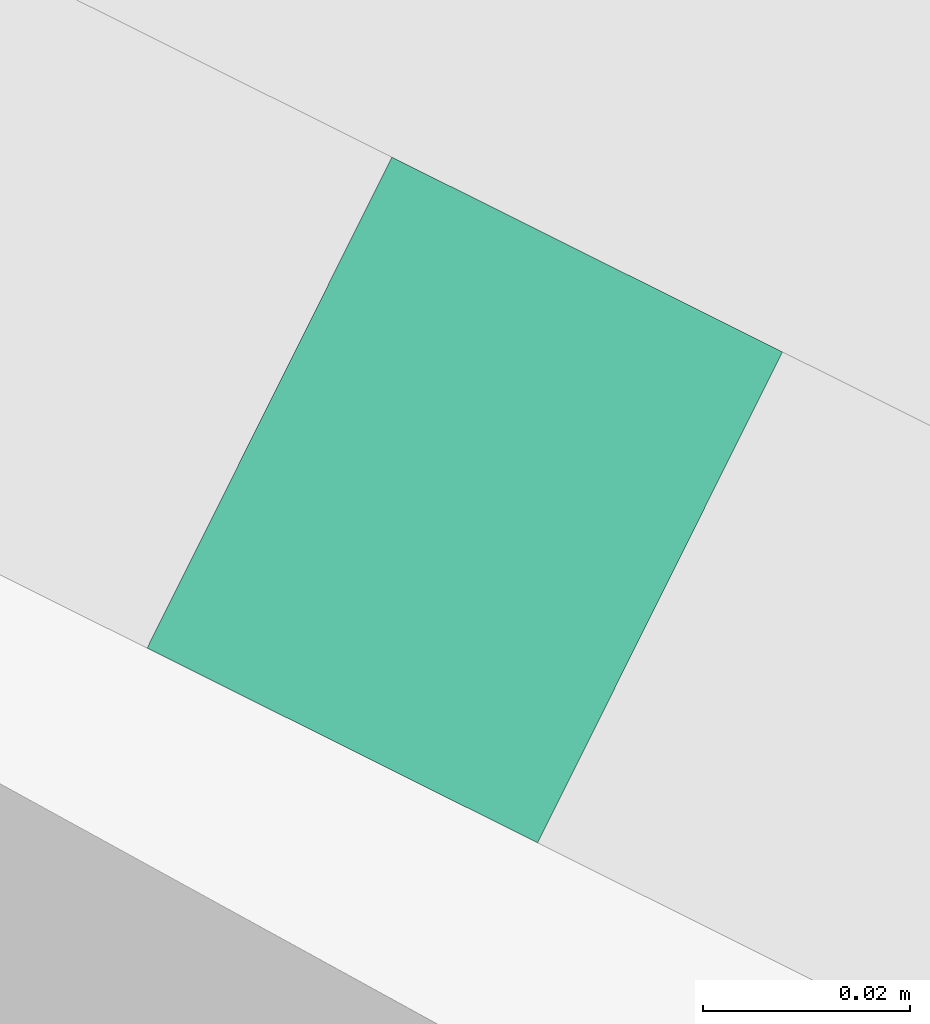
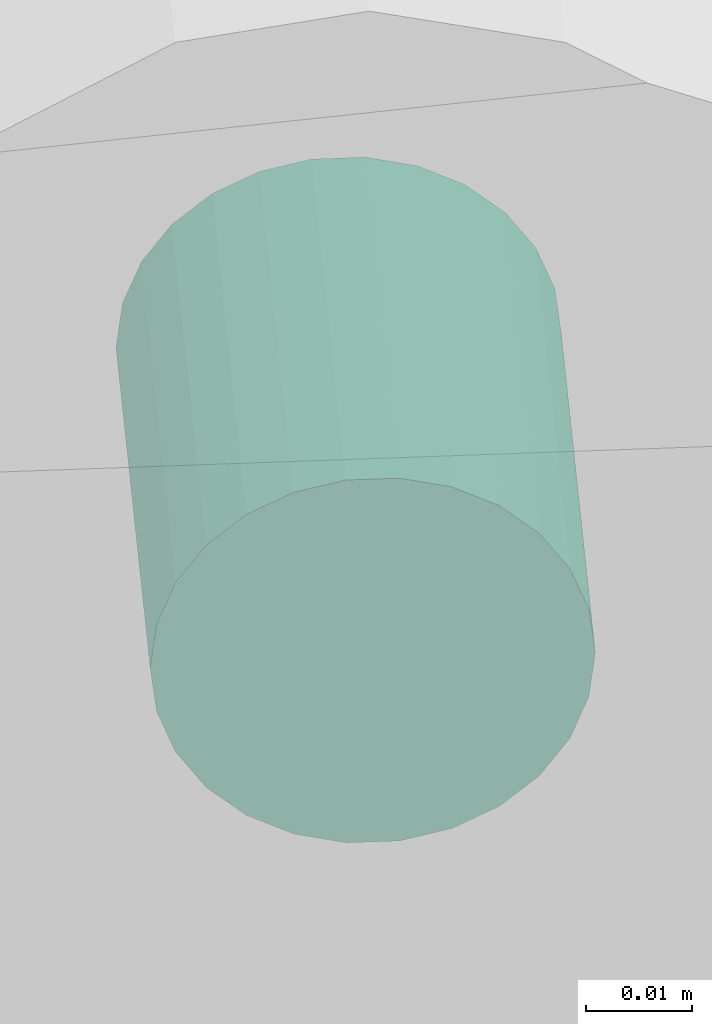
# One storey, part 27 of 34: 1 flow segment.
"""IFC2X3 building model written with IfcOpenShell, lengths in metres."""

from ifc_helpers import new_model, entity, si_unit, converted_unit, derived_unit, direction, frame, origin, origin_2d_with_axis, place, context, subcontext, project, spatial, circle, extrude, type_object, element, save


model = new_model("IFC2X3")

# Units and contexts
model_context = context("Model", 3, precision=1e-05, world=origin(), true_north=direction((0.894925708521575, 0.446215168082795)))
context_of_model = context(None, 3, precision=1e-05, world=origin(), true_north=direction((0.894925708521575, 0.446215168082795)))
body_context = subcontext(model_context, "Body", "Model", "MODEL_VIEW")
ifc_project = project(units=[si_unit("LENGTHUNIT", "METRE"), si_unit("AREAUNIT", "SQUARE_METRE"), si_unit("VOLUMEUNIT", "CUBIC_METRE"), converted_unit("PLANEANGLEUNIT", "DEGREE", entity("IfcRatioMeasure", 0.0174532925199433), si_unit("PLANEANGLEUNIT", "RADIAN"), dimensions=[0, 0, 0, 0, 0, 0, 0]), si_unit("MASSUNIT", "GRAM", prefix="KILO"), si_unit("TIMEUNIT", "SECOND"), si_unit("FREQUENCYUNIT", "HERTZ"), si_unit("THERMODYNAMICTEMPERATUREUNIT", "DEGREE_CELSIUS"), derived_unit("THERMALTRANSMITTANCEUNIT", [(si_unit("MASSUNIT", "GRAM", prefix="KILO"), 1), (si_unit("THERMODYNAMICTEMPERATUREUNIT", "KELVIN"), -1), (si_unit("TIMEUNIT", "SECOND"), -3)]), derived_unit("VOLUMETRICFLOWRATEUNIT", [(si_unit("LENGTHUNIT", "METRE"), 3), (si_unit("TIMEUNIT", "SECOND"), -1)]), si_unit("ELECTRICCURRENTUNIT", "AMPERE"), si_unit("ELECTRICVOLTAGEUNIT", "VOLT"), si_unit("POWERUNIT", "WATT"), si_unit("FORCEUNIT", "NEWTON", prefix="KILO"), si_unit("ILLUMINANCEUNIT", "LUX"), si_unit("LUMINOUSFLUXUNIT", "LUMEN"), si_unit("LUMINOUSINTENSITYUNIT", "CANDELA"), si_unit("PRESSUREUNIT", "PASCAL")], contexts=[model_context, context_of_model])

# Site, building, storey
site_placement = place(None, frame((218.228324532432, 584.720189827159, 0.0), z_axis=(0.0, 0.0, 1.0), x_axis=(0.446215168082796, 0.894925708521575, 0.0)))
site = spatial("IfcSite", under=ifc_project, at=site_placement, Name="Default", CompositionType="ELEMENT")
building_placement = place(site_placement, origin())
building = spatial("IfcBuilding", under=site, at=building_placement, CompositionType="ELEMENT")
storey_placement = place(building_placement, frame((0.0, 0.0, 8.61)))
storey = spatial("IfcBuildingStorey", under=building, at=storey_placement, Name="2 - Piano Secondo", CompositionType="ELEMENT", Elevation=8.61)

# Flow segment
pipe_segment_type = type_object("IfcPipeSegmentType", Name="Tubazione:Antincendio-Tubazione", PredefinedType="NOTDEFINED")
flow_segment_placement = place(storey_placement, frame((-68.5918662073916, -4.17375626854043, 0.87732272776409)))
element("IfcFlowSegment", 1, at=flow_segment_placement, inside=storey, type_object=pipe_segment_type, Name="Tubazione:Antincendio-Tubazione", ObjectType="Tubazione:Antincendio-Tubazione", context=body_context, shape_type="SweptSolid", body=[
    extrude(circle(Radius=0.021082, at=origin_2d_with_axis()), frame((0.0, 0.0226772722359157, 0.0226772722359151), z_axis=(1.0, 0.0, 0.0), x_axis=(0.0, 1.0, 0.0)), (0.0, 0.0, 1.0), 0.0530000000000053),
])

save(model, "model.ifc")
